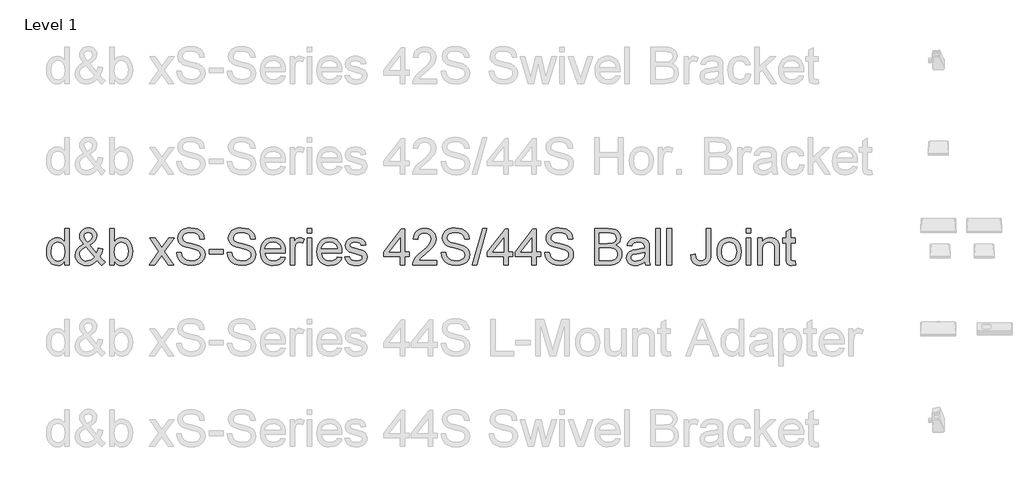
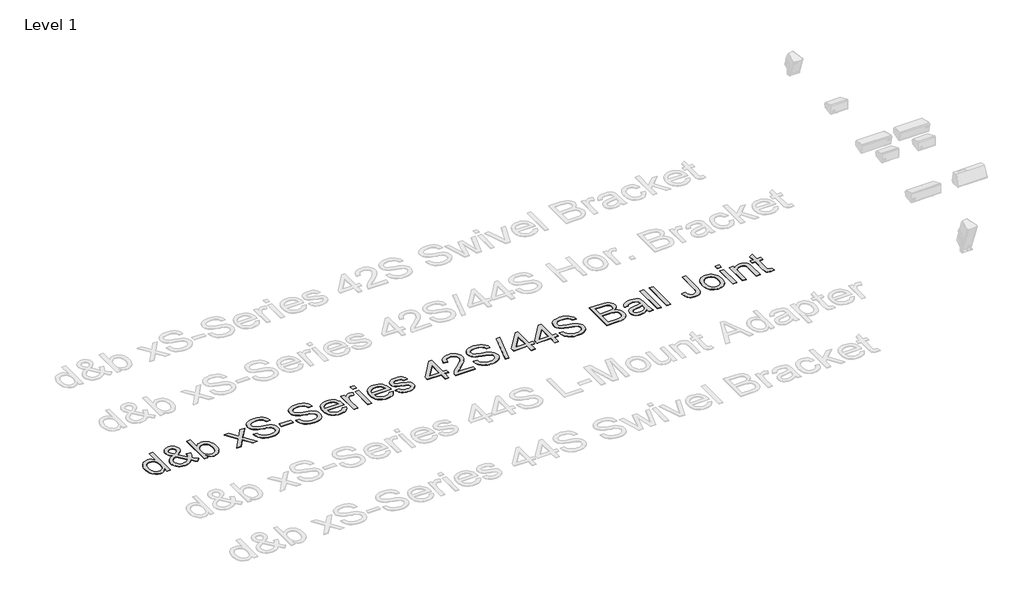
# One storey, part 28 of 55: 1 proxy.
"""IFC4 building model written with IfcOpenShell, lengths in millimetres."""

from ifc_helpers import new_model, si_unit, origin, origin_with_axes, place, context, project, spatial, polyline, outline, extrude, element, save

model = new_model("IFC4")

# Units and contexts
model_context = context("Model", 3, world=origin())
ifc_project = project(units=[si_unit("LENGTHUNIT", "METRE", prefix="MILLI")], contexts=[model_context])

# Site, building, storey
site = spatial("IfcSite", under=ifc_project)
building = spatial("IfcBuilding", under=site)
storey = spatial("IfcBuildingStorey", under=building, Name="Level 1", Elevation=0.0)

# Proxy
placement = place(None, origin())
element("IfcBuildingElementProxy", 1, Name="400mm Arial", ObjectType="400mm Arial", at=placement, inside=storey, context=model_context, shape_type="SweptSolid", body=[
    extrude(outline(polyline([(-20879.8211974, -7648.6945164), (-20879.8211974, -7601.3113154), (-20894.8491769, -7624.7883181), (-20913.0532043, -7641.5576057), (-20934.4332796, -7651.6191783), (-20958.9894028, -7654.9730358), (-20991.4611202, -7650.1169935), (-21021.1859854, -7635.5488665), (-21046.3491139, -7612.2864616), (-21065.1356211, -7581.3475858), (-21076.8342686, -7543.9830379), (-21080.7338177, -7501.4436165), (-21077.1408369, -7459.4314926), (-21066.3618944, -7421.4905962), (-21048.4092531, -7389.7791682), (-21023.2951755, -7366.4554497), (-20992.9203855, -7352.1080519), (-20959.1856065, -7347.325586), (-20934.6110892, -7350.7468885), (-20912.8815261, -7361.0107962), (-20894.4629008, -7376.7438829), (-20879.8211974, -7396.5727224), (-20879.8211974, -7246.8692758), (-20829.5930424, -7246.8692758), (-20829.5930424, -7648.6945164), (-20879.8211974, -7648.6945164)]), holes=[polyline([(-21030.5056627, -7501.2474128), (-21029.089317, -7525.6042665), (-21024.8402799, -7546.6808392), (-21017.7585515, -7564.4771307), (-21007.8441318, -7578.9931411), (-20983.1469871, -7598.3069458), (-20969.2717046, -7603.135397), (-20954.3786151, -7604.7448807), (-20939.415015, -7603.2089734), (-20925.6225058, -7598.6012514), (-20901.5507606, -7580.1703635), (-20892.0440767, -7566.2613584), (-20885.2535882, -7549.1088603), (-20879.8211974, -7505.0733855), (-20885.3516901, -7456.9298951), (-20892.2648059, -7438.3947739), (-20901.9431681, -7423.5507354), (-20913.6448812, -7412.1770504), (-20926.6280499, -7404.0529896), (-20940.8926743, -7399.1785532), (-20956.4387543, -7397.5537411), (-20971.6261493, -7399.1141738), (-20985.5014319, -7403.7954722), (-20998.064602, -7411.5976362), (-21009.3156597, -7422.5206658), (-21018.586286, -7436.8036843), (-21025.2081619, -7454.6858149), (-21030.5056627, -7501.2474128)])]), origin_with_axes(), (0.0, 0.0, 1.0), 5.0),
    extrude(outline(polyline([(-20523.809528, -7599.0549725), (-20549.3405384, -7623.5191252), (-20577.0788409, -7640.99352), (-20607.0734862, -7651.4781569), (-20639.3735254, -7654.9730358), (-20668.6814577, -7652.3855991), (-20694.8010793, -7644.623289), (-20717.7323904, -7631.6861055), (-20737.4753908, -7613.5740486), (-20750.308341, -7596.2038871), (-20759.4747341, -7577.8404442), (-20764.9745699, -7558.4837198), (-20766.8078485, -7538.1337141), (-20760.9094739, -7502.9396699), (-20743.2143499, -7471.3263438), (-20713.796053, -7443.3182613), (-20672.7281596, -7418.9399477), (-20694.6416638, -7390.5885086), (-20707.7995765, -7368.1231814), (-20714.3846642, -7348.9442668), (-20716.5796934, -7330.4520651), (-20714.8506481, -7312.8979626), (-20709.6635119, -7296.5333452), (-20701.018285, -7281.3582129), (-20688.9149674, -7267.3725657), (-20674.1935562, -7255.6555241), (-20657.6940487, -7247.2862088), (-20639.4164449, -7242.2646195), (-20619.3607448, -7240.5907564), (-20600.212487, -7242.1910431), (-20582.8913764, -7246.9919032), (-20567.397413, -7254.9933366), (-20553.7305969, -7266.1953433), (-20542.5715097, -7279.6414302), (-20534.6007332, -7294.3751041), (-20529.8182672, -7310.396365), (-20528.2241119, -7327.7052129), (-20532.9452642, -7355.68877), (-20547.108721, -7381.563137), (-20570.7144823, -7405.3283139), (-20603.7625482, -7426.9843007), (-20531.069066, -7517.5323224), (-20518.6837055, -7491.6579554), (-20509.3885538, -7461.9085647), (-20459.1603987, -7472.7978718), (-20474.6114425, -7519.3226815), (-20494.6732739, -7555.4977443), (-20466.1256311, -7588.8033276), (-20434.0463211, -7616.3209009), (-20471.7174374, -7654.9730358), (-20497.3465498, -7631.52669), (-20523.809528, -7599.0549725)]), holes=[polyline([(-20557.4584678, -7562.8553842), (-20647.1235727, -7450.9211558), (-20681.3733865, -7472.7733463), (-20702.305872, -7493.0068561), (-20713.0112381, -7512.3329235), (-20716.5796934, -7531.4627873), (-20711.6991256, -7555.1543878), (-20697.0574222, -7579.7289051), (-20686.2784798, -7590.6733944), (-20673.4639236, -7598.4908868), (-20658.6137537, -7603.1813823), (-20641.7279702, -7604.7448807), (-20619.0051256, -7601.8263502), (-20595.5710425, -7593.0707588), (-20574.1480476, -7579.6798541), (-20557.4584678, -7562.8553842)]), polyline([(-20629.1709314, -7395.2973981), (-20602.9041569, -7378.6323438), (-20587.8700461, -7364.1500559), (-20580.8067117, -7350.0601755), (-20578.452267, -7334.5723435), (-20581.5547385, -7317.0243723), (-20590.862153, -7303.0325938), (-20604.829406, -7293.8723321), (-20621.9113933, -7290.8189115), (-20639.3612626, -7293.8478066), (-20653.6473468, -7302.9344919), (-20663.1754905, -7316.3867102), (-20666.3515384, -7332.5122043), (-20662.0350563, -7350.9063041), (-20648.9875082, -7371.360543), (-20629.1709314, -7395.2973981)])]), origin_with_axes(), (0.0, 0.0, 1.0), 5.0),
    extrude(outline(polyline([(-20333.590011, -7648.6945164), (-20383.8181661, -7648.6945164), (-20383.8181661, -7246.8692758), (-20333.590011, -7246.8692758), (-20333.590011, -7395.8860093), (-20317.0721094, -7374.6408241), (-20298.4204923, -7359.4656918), (-20277.6351595, -7350.3606124), (-20254.7161112, -7347.325586), (-20228.8417442, -7350.0601755), (-20204.3898543, -7358.263944), (-20182.758393, -7371.4218567), (-20165.3453119, -7389.0188788), (-20151.6968898, -7410.883332), (-20141.3594058, -7436.8435381), (-20134.8478945, -7465.8203766), (-20132.6773907, -7496.734727), (-20134.9245365, -7532.4070178), (-20141.6659741, -7563.7873519), (-20152.9017034, -7590.8757295), (-20168.6317244, -7613.6721505), (-20187.5132678, -7631.7412878), (-20208.2035643, -7644.6478145), (-20230.702614, -7652.3917305), (-20255.0104168, -7654.9730358), (-20278.6836232, -7651.6437038), (-20299.671291, -7641.6557076), (-20317.9734203, -7625.0090473), (-20333.590011, -7601.7037229), (-20333.590011, -7648.6945164)]), holes=[polyline([(-20333.590011, -7499.0891717), (-20330.1564457, -7540.9786682), (-20319.8557498, -7569.3301073), (-20307.6849872, -7584.8240707), (-20293.5399244, -7595.8911874), (-20277.4205617, -7602.5314574), (-20259.3268989, -7604.7448807), (-20244.3050508, -7603.1139372), (-20230.3377977, -7598.2211067), (-20217.4251396, -7590.0663891), (-20205.5670767, -7578.6497845), (-20195.6526569, -7564.0019498), (-20188.5709285, -7546.1535416), (-20184.3218914, -7525.1045601), (-20182.9055458, -7500.8550053), (-20188.3379366, -7454.8942814), (-20195.1284251, -7437.1010555), (-20204.6351089, -7422.7659205), (-20216.0670419, -7411.735592), (-20228.6332778, -7403.8567859), (-20242.3338164, -7399.1295023), (-20257.1686579, -7397.5537411), (-20272.190506, -7399.1846846), (-20286.1577591, -7404.0775151), (-20299.0704171, -7412.2322327), (-20310.9284801, -7423.6488372), (-20320.8428999, -7438.1495192), (-20327.9246283, -7455.556469), (-20332.1736653, -7475.8696865), (-20333.590011, -7499.0891717)])]), origin_with_axes(), (0.0, 0.0, 1.0), 5.0),
    extrude(outline(polyline([(-19950.6003285, -7648.6945164), (-19843.2768878, -7500.2663941), (-19944.3218092, -7353.6041054), (-19884.0872638, -7353.6041054), (-19835.3306367, -7424.3355503), (-19812.4729021, -7457.5920827), (-19792.6563253, -7430.3197641), (-19737.1306695, -7353.6041054), (-19676.6999204, -7353.6041054), (-19782.8461387, -7500.364496), (-19680.623995, -7648.6945164), (-19740.9566422, -7648.6945164), (-19802.5646137, -7559.4218189), (-19813.7482263, -7543.0388074), (-19890.1695795, -7648.6945164), (-19950.6003285, -7648.6945164)])), origin_with_axes(), (0.0, 0.0, 1.0), 5.0),
    extrude(outline(polyline([(-19649.2313981, -7510.56709), (-19599.003243, -7510.56709), (-19593.2397584, -7538.4402825), (-19582.8164352, -7560.844296), (-19566.556051, -7578.6252591), (-19543.2813835, -7592.6293004), (-19514.8318425, -7601.7159856), (-19483.0468381, -7604.7448807), (-19455.063281, -7602.4517496), (-19430.5623402, -7595.5723563), (-19410.7089752, -7584.6830493), (-19396.6681457, -7570.3601769), (-19388.3172244, -7553.9158517), (-19385.533584, -7536.6621862), (-19387.6182486, -7519.849979), (-19393.8722425, -7505.3186402), (-19406.5764341, -7492.9210169), (-19428.0116917, -7482.5099565), (-19501.1466323, -7463.3310418), (-19549.1552327, -7450.639113), (-19579.8733793, -7438.5603208), (-19604.8770922, -7421.6622745), (-19622.5967416, -7401.1835101), (-19633.1549549, -7377.565486), (-19636.6743593, -7351.2496606), (-19632.3210891, -7321.8313637), (-19619.2612782, -7294.3996296), (-19597.8382834, -7271.1494875), (-19568.395461, -7254.2759667), (-19533.054264, -7244.012059), (-19493.9361452, -7240.5907564), (-19451.5561394, -7244.1714745), (-19414.4736342, -7254.9136288), (-19384.013005, -7272.59649), (-19361.4986269, -7296.999329), (-19347.249331, -7326.6015669), (-19341.5839483, -7359.8826247), (-19391.8121033, -7359.8826247), (-19401.0336787, -7329.9125049), (-19409.3968627, -7318.0544419), (-19420.2616443, -7308.2810436), (-19450.3053406, -7295.1844445), (-19491.9741079, -7290.8189115), (-19534.6238939, -7295.1353936), (-19550.9271976, -7300.5309962), (-19563.8827752, -7308.0848398), (-19580.805347, -7327.1411272), (-19586.4462043, -7349.7781326), (-19582.4485532, -7369.0796746), (-19570.4556002, -7384.6042948), (-19542.1041611, -7398.4857088), (-19488.4424407, -7412.6614283), (-19433.0639377, -7426.1259093), (-19399.5621507, -7437.8736077), (-19370.9286687, -7456.0960292), (-19350.9526764, -7478.5858819), (-19339.2172408, -7505.097911), (-19335.3054289, -7535.3868619), (-19339.805852, -7566.3502632), (-19353.3071212, -7595.4742545), (-19375.2574136, -7620.5392811), (-19405.1049061, -7639.3257883), (-19440.9979261, -7651.0612239), (-19481.0848008, -7654.9730358), (-19530.2951491, -7650.7546556), (-19570.7989567, -7638.099515), (-19603.0622077, -7616.958563), (-19627.5508858, -7587.2827487), (-19643.2717098, -7551.1322113), (-19649.2313981, -7510.56709)])), origin_with_axes(), (0.0, 0.0, 1.0), 5.0),
    extrude(outline(polyline([(-19291.3557932, -7529.4026481), (-19291.3557932, -7479.174493), (-19134.3928086, -7479.174493), (-19134.3928086, -7529.4026481), (-19291.3557932, -7529.4026481)])), origin_with_axes(), (0.0, 0.0, 1.0), 5.0),
    extrude(outline(polyline([(-19090.4431729, -7510.56709), (-19040.2150178, -7510.56709), (-19034.4515332, -7538.4402825), (-19024.02821, -7560.844296), (-19007.7678258, -7578.6252591), (-18984.4931583, -7592.6293004), (-18956.0436173, -7601.7159856), (-18924.2586129, -7604.7448807), (-18896.2750558, -7602.4517496), (-18871.774115, -7595.5723563), (-18851.9207499, -7584.6830493), (-18837.8799205, -7570.3601769), (-18829.5289992, -7553.9158517), (-18826.7453587, -7536.6621862), (-18828.8300234, -7519.849979), (-18835.0840173, -7505.3186402), (-18847.7882089, -7492.9210169), (-18869.2234665, -7482.5099565), (-18942.3584071, -7463.3310418), (-18990.3670075, -7450.639113), (-19021.0851541, -7438.5603208), (-19046.088867, -7421.6622745), (-19063.8085164, -7401.1835101), (-19074.3667297, -7377.565486), (-19077.8861341, -7351.2496606), (-19073.5328638, -7321.8313637), (-19060.473053, -7294.3996296), (-19039.0500582, -7271.1494875), (-19009.6072358, -7254.2759667), (-18974.2660388, -7244.012059), (-18935.14792, -7240.5907564), (-18892.7679141, -7244.1714745), (-18855.685409, -7254.9136288), (-18825.2247798, -7272.59649), (-18802.7104017, -7296.999329), (-18788.4611058, -7326.6015669), (-18782.7957231, -7359.8826247), (-18833.0238781, -7359.8826247), (-18842.2454535, -7329.9125049), (-18850.6086375, -7318.0544419), (-18861.4734191, -7308.2810436), (-18891.5171154, -7295.1844445), (-18933.1858827, -7290.8189115), (-18975.8356687, -7295.1353936), (-18992.1389724, -7300.5309962), (-19005.09455, -7308.0848398), (-19022.0171218, -7327.1411272), (-19027.657979, -7349.7781326), (-19023.660328, -7369.0796746), (-19011.667375, -7384.6042948), (-18983.3159359, -7398.4857088), (-18929.6542155, -7412.6614283), (-18874.2757125, -7426.1259093), (-18840.7739255, -7437.8736077), (-18812.1404435, -7456.0960292), (-18792.1644512, -7478.5858819), (-18780.4290156, -7505.097911), (-18776.5172037, -7535.3868619), (-18781.0176267, -7566.3502632), (-18794.518896, -7595.4742545), (-18816.4691883, -7620.5392811), (-18846.3166809, -7639.3257883), (-18882.2097009, -7651.0612239), (-18922.2965756, -7654.9730358), (-18971.5069238, -7650.7546556), (-19012.0107315, -7638.099515), (-19044.2739825, -7616.958563), (-19068.7626606, -7587.2827487), (-19084.4834846, -7551.1322113), (-19090.4431729, -7510.56709)])), origin_with_axes(), (0.0, 0.0, 1.0), 5.0),
    extrude(outline(polyline([(-18500.850962, -7560.795245), (-18451.6038255, -7567.0737644), (-18459.1546035, -7586.7983707), (-18469.3480004, -7604.180795), (-18482.1840164, -7619.2210372), (-18497.6626513, -7631.9190974), (-18515.6244897, -7642.0051955), (-18535.9101161, -7649.2095512), (-18583.4527326, -7654.9730358), (-18614.618469, -7652.4867667), (-18642.3874282, -7645.0279592), (-18666.7596104, -7632.5966135), (-18687.7350155, -7615.1927294), (-18704.602405, -7593.300685), (-18716.6505403, -7567.4048582), (-18723.8794215, -7537.5052491), (-18726.2890486, -7503.6018575), (-18723.8548961, -7468.5488348), (-18716.5524385, -7437.6528785), (-18704.3816758, -7410.9139888), (-18687.342608, -7388.3321657), (-18666.4223852, -7370.3917871), (-18642.6081574, -7357.5772309), (-18615.8999246, -7349.8884972), (-18586.2976867, -7347.325586), (-18557.6488763, -7349.8823658), (-18531.7407868, -7357.5527054), (-18508.5734182, -7370.3366048), (-18488.1467704, -7388.2340638), (-18471.472519, -7410.766836), (-18459.5623394, -7437.4566748), (-18452.4162316, -7468.3035801), (-18450.0341957, -7503.3075519), (-18450.3285013, -7516.8456094), (-18676.0608935, -7516.8456094), (-18673.1515601, -7536.8890467), (-18667.3666157, -7554.4431493), (-18658.7060604, -7569.507917), (-18647.1698942, -7582.0833498), (-18633.3957791, -7591.9977696), (-18618.0213774, -7599.079498), (-18582.4717139, -7604.7448807), (-18555.7389556, -7602.1206558), (-18533.2245775, -7594.2479811), (-18514.9285796, -7580.6363473), (-18500.850962, -7560.795245)]), holes=[polyline([(-18676.0608935, -7466.6174543), (-18500.2623508, -7466.6174543), (-18507.0559049, -7440.0808997), (-18520.3732332, -7421.0981887), (-18534.0707061, -7410.7974929), (-18549.65664, -7403.439853), (-18567.1310348, -7399.025269), (-18586.4938904, -7397.5537411), (-18620.3512967, -7402.2503679), (-18648.3471166, -7416.3402483), (-18667.8080741, -7438.3028034), (-18676.0608935, -7466.6174543)])]), origin_with_axes(), (0.0, 0.0, 1.0), 5.0),
    extrude(outline(polyline([(-18399.8060406, -7648.6945164), (-18399.8060406, -7353.6041054), (-18355.8564049, -7353.6041054), (-18355.8564049, -7397.2594355), (-18339.6205462, -7371.9491542), (-18324.6600117, -7357.0376707), (-18309.6504263, -7349.7536071), (-18293.2674148, -7347.325586), (-18268.2514391, -7351.2006097), (-18242.843056, -7362.8256807), (-18259.618475, -7407.8544369), (-18277.2768108, -7400.128915), (-18294.9351465, -7397.5537411), (-18309.9324692, -7400.0308132), (-18323.3356365, -7407.4620295), (-18334.1636299, -7419.2833042), (-18341.4354307, -7434.9305518), (-18347.5422718, -7462.9876853), (-18349.5778855, -7493.5954673), (-18349.5778855, -7648.6945164), (-18399.8060406, -7648.6945164)])), origin_with_axes(), (0.0, 0.0, 1.0), 5.0),
    extrude(outline(polyline([(-18211.4504591, -7297.0974309), (-18211.4504591, -7246.8692758), (-18161.222304, -7246.8692758), (-18161.222304, -7297.0974309), (-18211.4504591, -7297.0974309)])), origin_with_axes(), (0.0, 0.0, 1.0), 5.0),
    extrude(outline(polyline([(-18211.4504591, -7648.6945164), (-18211.4504591, -7353.6041054), (-18161.222304, -7353.6041054), (-18161.222304, -7648.6945164), (-18211.4504591, -7648.6945164)])), origin_with_axes(), (0.0, 0.0, 1.0), 5.0),
    extrude(outline(polyline([(-17879.2775429, -7560.795245), (-17830.0304065, -7567.0737644), (-17837.5811844, -7586.7983707), (-17847.7745814, -7604.180795), (-17860.6105973, -7619.2210372), (-17876.0892323, -7631.9190974), (-17894.0510707, -7642.0051955), (-17914.336697, -7649.2095512), (-17961.8793136, -7654.9730358), (-17993.0450499, -7652.4867667), (-18020.8140092, -7645.0279592), (-18045.1861914, -7632.5966135), (-18066.1615965, -7615.1927294), (-18083.0289859, -7593.300685), (-18095.0771213, -7567.4048582), (-18102.3060025, -7537.5052491), (-18104.7156295, -7503.6018575), (-18102.281477, -7468.5488348), (-18094.9790194, -7437.6528785), (-18082.8082567, -7410.9139888), (-18065.769189, -7388.3321657), (-18044.8489662, -7370.3917871), (-18021.0347384, -7357.5772309), (-17994.3265055, -7349.8884972), (-17964.7242676, -7347.325586), (-17936.0754573, -7349.8823658), (-17910.1673678, -7357.5527054), (-17886.9999991, -7370.3366048), (-17866.5733513, -7388.2340638), (-17849.8990999, -7410.766836), (-17837.9889203, -7437.4566748), (-17830.8428126, -7468.3035801), (-17828.4607766, -7503.3075519), (-17828.7550822, -7516.8456094), (-18054.4874745, -7516.8456094), (-18051.578141, -7536.8890467), (-18045.7931967, -7554.4431493), (-18037.1326413, -7569.507917), (-18025.5964751, -7582.0833498), (-18011.8223601, -7591.9977696), (-17996.4479584, -7599.079498), (-17960.8982949, -7604.7448807), (-17934.1655366, -7602.1206558), (-17911.6511585, -7594.2479811), (-17893.3551606, -7580.6363473), (-17879.2775429, -7560.795245)]), holes=[polyline([(-18054.4874745, -7466.6174543), (-17878.6889317, -7466.6174543), (-17885.4824859, -7440.0808997), (-17898.7998141, -7421.0981887), (-17912.4972871, -7410.7974929), (-17928.0832209, -7403.439853), (-17945.5576157, -7399.025269), (-17964.9204714, -7397.5537411), (-17998.7778777, -7402.2503679), (-18026.7736975, -7416.3402483), (-18046.234655, -7438.3028034), (-18054.4874745, -7466.6174543)])]), origin_with_axes(), (0.0, 0.0, 1.0), 5.0),
    extrude(outline(polyline([(-17797.0681797, -7560.795245), (-17746.8400246, -7554.5167257), (-17738.918299, -7576.0010342), (-17723.5898825, -7591.7954345), (-17700.7566734, -7601.5075192), (-17670.3205696, -7604.7448807), (-17640.2523479, -7601.7772993), (-17619.1113959, -7592.874555), (-17606.6034081, -7579.9741597), (-17602.4340788, -7565.0136253), (-17606.6279335, -7552.2113318), (-17619.2094978, -7542.4501962), (-17670.9091808, -7528.1273239), (-17746.545719, -7503.5528066), (-17765.6878455, -7491.2042343), (-17779.5569967, -7474.858011), (-17787.9814944, -7455.556469), (-17790.7896603, -7434.3419406), (-17788.5333174, -7414.880983), (-17781.7642887, -7396.9160789), (-17771.0957109, -7381.1584668), (-17757.1407205, -7368.3193852), (-17725.2085633, -7353.4569526), (-17704.3251287, -7348.8584276), (-17681.9946916, -7347.325586), (-17649.302245, -7349.7903953), (-17620.8772295, -7357.1848234), (-17598.0194949, -7368.785369), (-17582.0288908, -7383.8685308), (-17571.4338893, -7403.5502176), (-17564.7629625, -7428.946338), (-17614.9911176, -7435.2248574), (-17621.3309506, -7419.4181943), (-17633.8757267, -7407.5110804), (-17652.748073, -7400.0430759), (-17678.070617, -7397.5537411), (-17706.9125654, -7399.9327113), (-17726.140531, -7407.069622), (-17736.9562617, -7417.3703179), (-17740.5615053, -7429.2406436), (-17734.5772915, -7443.8578215), (-17715.8398352, -7454.9433323), (-17672.5769125, -7465.6364356), (-17598.8533607, -7489.2789852), (-17579.3801404, -7500.5852252), (-17564.6158097, -7516.0607944), (-17555.3083952, -7535.7547439), (-17552.2059237, -7559.7161245), (-17555.8479555, -7584.4868455), (-17566.7740507, -7607.7860386), (-17584.5672766, -7627.7865564), (-17608.8107, -7642.6612517), (-17638.0941069, -7651.8950898), (-17671.0072827, -7654.9730358), (-17698.040478, -7653.4892451), (-17721.6523707, -7649.037873), (-17741.8429609, -7641.6189194), (-17758.6122485, -7631.2323844), (-17772.3097214, -7617.9273189), (-17783.2848676, -7601.7527738), (-17791.5376871, -7582.7087492), (-17797.0681797, -7560.795245)])), origin_with_axes(), (0.0, 0.0, 1.0), 5.0),
    extrude(outline(polyline([(-17188.0517994, -7648.6945164), (-17188.0517994, -7554.5167257), (-17370.1288616, -7554.5167257), (-17370.1288616, -7504.2885706), (-17175.4947607, -7253.1477952), (-17137.8236444, -7253.1477952), (-17137.8236444, -7504.2885706), (-17087.5954893, -7504.2885706), (-17087.5954893, -7554.5167257), (-17137.8236444, -7554.5167257), (-17137.8236444, -7648.6945164), (-17188.0517994, -7648.6945164)]), holes=[polyline([(-17188.0517994, -7504.2885706), (-17188.0517994, -7349.0914196), (-17308.3246864, -7504.2885706), (-17188.0517994, -7504.2885706)])]), origin_with_axes(), (0.0, 0.0, 1.0), 5.0),
    extrude(outline(polyline([(-16786.2265588, -7598.4663614), (-16786.2265588, -7648.6945164), (-17049.924373, -7648.6945164), (-17048.820727, -7631.0116552), (-17044.5287704, -7614.0645579), (-17032.1311471, -7587.0007058), (-17013.9700393, -7560.7461941), (-16987.7155276, -7533.2654091), (-16951.0376927, -7502.522737), (-16896.8486748, -7454.3792466), (-16864.3646946, -7418.8418458), (-16848.1410986, -7389.9998974), (-16842.7332333, -7361.9427639), (-16847.846793, -7336.7918982), (-16863.1874722, -7315.8839381), (-16886.7687081, -7301.7940577), (-16916.6039379, -7297.0974309), (-16947.9352212, -7301.6836931), (-16972.2767465, -7315.4424797), (-16987.9853077, -7337.2946702), (-16993.4176985, -7366.1611441), (-17043.6458536, -7359.8826247), (-17039.3263058, -7333.9530755), (-17031.4689596, -7311.2976759), (-17020.0738147, -7291.9164261), (-17005.1408714, -7275.8093261), (-16987.0134861, -7263.1480541), (-16966.0350153, -7254.1042884), (-16942.2054591, -7248.678029), (-16915.5248174, -7246.8692758), (-16888.6050524, -7248.8803641), (-16864.6467375, -7254.9136288), (-16843.6498726, -7264.96907), (-16825.6144578, -7279.0466877), (-16811.1291042, -7296.1041495), (-16800.7824231, -7315.0991232), (-16794.5744144, -7336.0316087), (-16792.5050782, -7358.9016061), (-16794.7368957, -7382.9243004), (-16801.432348, -7406.5300617), (-16813.3149364, -7430.5404933), (-16831.1081622, -7455.7771982), (-16859.4718641, -7485.9067336), (-16903.0658805, -7524.5956567), (-16960.8478792, -7572.9108254), (-16983.5094101, -7598.4663614), (-16786.2265588, -7598.4663614)])), origin_with_axes(), (0.0, 0.0, 1.0), 5.0),
    extrude(outline(polyline([(-16735.9984038, -7510.56709), (-16685.7702487, -7510.56709), (-16680.0067641, -7538.4402825), (-16669.5834409, -7560.844296), (-16653.3230567, -7578.6252591), (-16630.0483891, -7592.6293004), (-16601.5988482, -7601.7159856), (-16569.8138438, -7604.7448807), (-16541.8302867, -7602.4517496), (-16517.3293458, -7595.5723563), (-16497.4759808, -7584.6830493), (-16483.4351513, -7570.3601769), (-16475.08423, -7553.9158517), (-16472.3005896, -7536.6621862), (-16474.3852543, -7519.849979), (-16480.6392482, -7505.3186402), (-16493.3434397, -7492.9210169), (-16514.7786973, -7482.5099565), (-16587.913638, -7463.3310418), (-16635.9222383, -7450.639113), (-16666.6403849, -7438.5603208), (-16691.6440979, -7421.6622745), (-16709.3637473, -7401.1835101), (-16719.9219606, -7377.565486), (-16723.441365, -7351.2496606), (-16719.0880947, -7321.8313637), (-16706.0282839, -7294.3996296), (-16684.605289, -7271.1494875), (-16655.1624667, -7254.2759667), (-16619.8212697, -7244.012059), (-16580.7031509, -7240.5907564), (-16538.323145, -7244.1714745), (-16501.2406399, -7254.9136288), (-16470.7800107, -7272.59649), (-16448.2656326, -7296.999329), (-16434.0163367, -7326.6015669), (-16428.3509539, -7359.8826247), (-16478.579109, -7359.8826247), (-16487.8006843, -7329.9125049), (-16496.1638684, -7318.0544419), (-16507.02865, -7308.2810436), (-16537.0723462, -7295.1844445), (-16578.7411136, -7290.8189115), (-16621.3908995, -7295.1353936), (-16637.6942033, -7300.5309962), (-16650.6497809, -7308.0848398), (-16667.5723527, -7327.1411272), (-16673.2132099, -7349.7781326), (-16669.2155589, -7369.0796746), (-16657.2226059, -7384.6042948), (-16628.8711668, -7398.4857088), (-16575.2094464, -7412.6614283), (-16519.8309434, -7426.1259093), (-16486.3291564, -7437.8736077), (-16457.6956744, -7456.0960292), (-16437.7196821, -7478.5858819), (-16425.9842464, -7505.097911), (-16422.0724345, -7535.3868619), (-16426.5728576, -7566.3502632), (-16440.0741268, -7595.4742545), (-16462.0244192, -7620.5392811), (-16491.8719118, -7639.3257883), (-16527.7649318, -7651.0612239), (-16567.8518065, -7654.9730358), (-16617.0621547, -7650.7546556), (-16657.5659624, -7638.099515), (-16689.8292134, -7616.958563), (-16714.3178915, -7587.2827487), (-16730.0387154, -7551.1322113), (-16735.9984038, -7510.56709)])), origin_with_axes(), (0.0, 0.0, 1.0), 5.0),
    extrude(outline(polyline([(-16390.6798376, -7648.6945164), (-16277.6664887, -7246.8692758), (-16232.1472232, -7246.8692758), (-16345.2586739, -7648.6945164), (-16390.6798376, -7648.6945164)])), origin_with_axes(), (0.0, 0.0, 1.0), 5.0),
    extrude(outline(polyline([(-16045.3612715, -7648.6945164), (-16045.3612715, -7554.5167257), (-16227.4383336, -7554.5167257), (-16227.4383336, -7504.2885706), (-16032.8042327, -7253.1477952), (-15995.1331164, -7253.1477952), (-15995.1331164, -7504.2885706), (-15944.9049613, -7504.2885706), (-15944.9049613, -7554.5167257), (-15995.1331164, -7554.5167257), (-15995.1331164, -7648.6945164), (-16045.3612715, -7648.6945164)]), holes=[polyline([(-16045.3612715, -7504.2885706), (-16045.3612715, -7349.0914196), (-16165.6341584, -7504.2885706), (-16045.3612715, -7504.2885706)])]), origin_with_axes(), (0.0, 0.0, 1.0), 5.0),
    extrude(outline(polyline([(-15737.7138216, -7648.6945164), (-15737.7138216, -7554.5167257), (-15919.7908838, -7554.5167257), (-15919.7908838, -7504.2885706), (-15725.1567829, -7253.1477952), (-15687.4856666, -7253.1477952), (-15687.4856666, -7504.2885706), (-15637.2575115, -7504.2885706), (-15637.2575115, -7554.5167257), (-15687.4856666, -7554.5167257), (-15687.4856666, -7648.6945164), (-15737.7138216, -7648.6945164)]), holes=[polyline([(-15737.7138216, -7504.2885706), (-15737.7138216, -7349.0914196), (-15857.9867086, -7504.2885706), (-15737.7138216, -7504.2885706)])]), origin_with_axes(), (0.0, 0.0, 1.0), 5.0),
    extrude(outline(polyline([(-15593.3078758, -7510.56709), (-15543.0797207, -7510.56709), (-15537.3162361, -7538.4402825), (-15526.8929129, -7560.844296), (-15510.6325288, -7578.6252591), (-15487.3578612, -7592.6293004), (-15458.9083202, -7601.7159856), (-15427.1233159, -7604.7448807), (-15399.1397588, -7602.4517496), (-15374.6388179, -7595.5723563), (-15354.7854529, -7584.6830493), (-15340.7446234, -7570.3601769), (-15332.3937021, -7553.9158517), (-15329.6100617, -7536.6621862), (-15331.6947263, -7519.849979), (-15337.9487202, -7505.3186402), (-15350.6529118, -7492.9210169), (-15372.0881694, -7482.5099565), (-15445.22311, -7463.3310418), (-15493.2317104, -7450.639113), (-15523.949857, -7438.5603208), (-15548.9535699, -7421.6622745), (-15566.6732194, -7401.1835101), (-15577.2314326, -7377.565486), (-15580.750837, -7351.2496606), (-15576.3975668, -7321.8313637), (-15563.3377559, -7294.3996296), (-15541.9147611, -7271.1494875), (-15512.4719387, -7254.2759667), (-15477.1307417, -7244.012059), (-15438.0126229, -7240.5907564), (-15395.6326171, -7244.1714745), (-15358.550112, -7254.9136288), (-15328.0894827, -7272.59649), (-15305.5751046, -7296.999329), (-15291.3258087, -7326.6015669), (-15285.660426, -7359.8826247), (-15335.888581, -7359.8826247), (-15345.1101564, -7329.9125049), (-15353.4733404, -7318.0544419), (-15364.338122, -7308.2810436), (-15394.3818183, -7295.1844445), (-15436.0505856, -7290.8189115), (-15478.7003716, -7295.1353936), (-15495.0036753, -7300.5309962), (-15507.9592529, -7308.0848398), (-15524.8818247, -7327.1411272), (-15530.522682, -7349.7781326), (-15526.5250309, -7369.0796746), (-15514.5320779, -7384.6042948), (-15486.1806388, -7398.4857088), (-15432.5189184, -7412.6614283), (-15377.1404154, -7426.1259093), (-15343.6386284, -7437.8736077), (-15315.0051465, -7456.0960292), (-15295.0291541, -7478.5858819), (-15283.2937185, -7505.097911), (-15279.3819066, -7535.3868619), (-15283.8823297, -7566.3502632), (-15297.3835989, -7595.4742545), (-15319.3338913, -7620.5392811), (-15349.1813838, -7639.3257883), (-15385.0744038, -7651.0612239), (-15425.1612785, -7654.9730358), (-15474.3716268, -7650.7546556), (-15514.8754344, -7638.099515), (-15547.1386854, -7616.958563), (-15571.6273636, -7587.2827487), (-15587.3481875, -7551.1322113), (-15593.3078758, -7510.56709)])), origin_with_axes(), (0.0, 0.0, 1.0), 5.0),
    extrude(outline(polyline([(-15047.0766894, -7648.6945164), (-15047.0766894, -7246.8692758), (-14893.7434738, -7246.8692758), (-14851.5719344, -7249.8245945), (-14818.6464958, -7258.6905506), (-14793.409791, -7273.6878733), (-14774.3044527, -7295.0372917), (-14762.2747114, -7320.1513693), (-14758.2647977, -7346.4426692), (-14761.6370493, -7370.6370417), (-14771.7538042, -7393.3844118), (-14788.6886387, -7413.2868277), (-14812.5151292, -7428.946338), (-14784.0533255, -7443.8087706), (-14763.0227382, -7466.4212506), (-14750.0365037, -7495.2877244), (-14745.7077589, -7528.9121388), (-14748.6630776, -7556.9324841), (-14757.5290337, -7582.9172157), (-14770.7605228, -7605.0146609), (-14786.8124405, -7621.3731469), (-14806.4696018, -7633.2189472), (-14830.5168215, -7641.7783349), (-14859.7389147, -7646.9654711), (-14894.9206962, -7648.6945164), (-15047.0766894, -7648.6945164)]), holes=[polyline([(-14996.8485343, -7598.4663614), (-14893.8415756, -7598.4663614), (-14856.5628668, -7596.504324), (-14825.0231171, -7585.5659661), (-14813.447097, -7576.1359242), (-14804.1274198, -7563.2477917), (-14797.9837904, -7547.4779168), (-14795.935914, -7529.4026481), (-14798.3394097, -7508.4088489), (-14805.5498968, -7490.3581057), (-14818.1437238, -7476.2436998), (-14836.6972391, -7467.0589127), (-14862.9762762, -7462.0189293), (-14898.7466689, -7460.3389349), (-14996.8485343, -7460.3389349), (-14996.8485343, -7598.4663614)]), polyline([(-14996.8485343, -7410.1107798), (-14905.1232902, -7410.1107798), (-14851.5596717, -7405.7942977), (-14832.8099526, -7398.3508187), (-14819.3332089, -7387.2039943), (-14811.2030168, -7372.5255026), (-14808.4929528, -7354.4870222), (-14811.0190758, -7336.9758392), (-14818.5974449, -7321.7209991), (-14830.8847035, -7309.8138852), (-14847.5374952, -7302.3458807), (-14873.0930311, -7298.4095434), (-14912.0885226, -7297.0974309), (-14996.8485343, -7297.0974309), (-14996.8485343, -7410.1107798)])]), origin_with_axes(), (0.0, 0.0, 1.0), 5.0),
    extrude(outline(polyline([(-14494.5669835, -7611.0234001), (-14518.5651524, -7631.6002664), (-14543.2745597, -7645.0647474), (-14569.2592913, -7652.4959637), (-14597.0834329, -7654.9730358), (-14619.4475925, -7653.4831137), (-14639.0587685, -7649.0133475), (-14655.9169609, -7641.5637371), (-14670.0221698, -7631.1342825), (-14681.1597972, -7618.3871714), (-14689.1152453, -7603.9845913), (-14693.8885142, -7587.9265422), (-14695.4796038, -7570.2130241), (-14693.0761081, -7549.3909032), (-14685.865621, -7530.4817686), (-14674.743322, -7514.2949609), (-14660.6043907, -7501.6398202), (-14643.9883873, -7492.0748883), (-14625.434872, -7485.1587068), (-14581.9757456, -7477.6048632), (-14530.6194191, -7469.6586121), (-14494.8612891, -7460.3389349), (-14494.5669835, -7449.1553222), (-14498.0250743, -7426.739046), (-14508.3993466, -7412.0728171), (-14531.6004377, -7401.1835101), (-14563.9250024, -7397.5537411), (-14593.8460713, -7399.9694995), (-14614.7417686, -7407.2167748), (-14628.9910646, -7420.6199422), (-14638.9729294, -7441.5033767), (-14689.2010845, -7435.2248574), (-14680.4822812, -7407.7563351), (-14667.4715213, -7386.1739247), (-14648.9547942, -7369.6682858), (-14623.7180893, -7357.4300781), (-14592.8527899, -7349.851709), (-14557.4502793, -7347.325586), (-14523.4947711, -7349.5574034), (-14496.5780718, -7356.2528557), (-14476.2832484, -7366.3205597), (-14462.193368, -7378.669132), (-14452.8491653, -7393.9362348), (-14446.7913751, -7412.7595302), (-14444.3388285, -7456.7091659), (-14444.3388285, -7519.2000541), (-14441.78818, -7606.4616634), (-14431.7817897, -7648.6945164), (-14482.0099448, -7648.6945164), (-14490.0542977, -7631.2323844), (-14494.5669835, -7611.0234001)]), holes=[polyline([(-14494.5669835, -7510.56709), (-14528.3140252, -7518.930274), (-14575.5991243, -7525.9690828), (-14618.812996, -7534.1115377), (-14630.0579224, -7539.6788185), (-14638.3843182, -7547.3552895), (-14643.5346661, -7556.5523394), (-14645.2514488, -7566.681357), (-14641.5113152, -7581.617366), (-14630.2909143, -7593.8555737), (-14611.8355009, -7602.022554), (-14586.3903295, -7604.7448807), (-14559.4123166, -7601.7405111), (-14535.5735633, -7592.7274022), (-14516.2474958, -7579.4468622), (-14502.8075402, -7563.6401991), (-14496.8478519, -7547.3552895), (-14494.8612891, -7524.7918605), (-14494.5669835, -7510.56709)])]), origin_with_axes(), (0.0, 0.0, 1.0), 5.0),
    extrude(outline(polyline([(-14375.2751152, -7648.6945164), (-14375.2751152, -7246.8692758), (-14325.0469602, -7246.8692758), (-14325.0469602, -7648.6945164), (-14375.2751152, -7648.6945164)])), origin_with_axes(), (0.0, 0.0, 1.0), 5.0),
    extrude(outline(polyline([(-14249.7047276, -7648.6945164), (-14249.7047276, -7246.8692758), (-14199.4765725, -7246.8692758), (-14199.4765725, -7648.6945164), (-14249.7047276, -7648.6945164)])), origin_with_axes(), (0.0, 0.0, 1.0), 5.0),
    extrude(outline(polyline([(-13986.0069134, -7535.8773712), (-13935.7787583, -7529.4026481), (-13930.554834, -7565.9210675), (-13918.6109319, -7588.7542767), (-13900.3639849, -7600.7472297), (-13876.2309261, -7604.7448807), (-13857.6774108, -7602.4762751), (-13841.8462222, -7595.6704582), (-13829.63254, -7584.9528294), (-13821.9315436, -7570.9487881), (-13817.8480534, -7550.6784902), (-13816.48689, -7521.1620914), (-13816.48689, -7246.8692758), (-13766.258735, -7246.8692758), (-13766.258735, -7520.2791746), (-13769.2876301, -7565.0013625), (-13778.3743153, -7598.3192086), (-13794.0460883, -7622.6607339), (-13816.8302466, -7640.4539597), (-13845.4392031, -7651.3432668), (-13878.5853708, -7654.9730358), (-13903.3376977, -7653.0999033), (-13925.0120786, -7647.4805058), (-13943.6085135, -7638.1148434), (-13959.1270023, -7625.0029159), (-13971.2916336, -7608.1937744), (-13979.8264959, -7587.7364698), (-13984.7315892, -7563.6310021), (-13986.0069134, -7535.8773712)])), origin_with_axes(), (0.0, 0.0, 1.0), 5.0),
    extrude(outline(polyline([(-13697.1950217, -7501.1493109), (-13694.4788263, -7462.932503), (-13686.3302401, -7430.000933), (-13672.7492632, -7402.3546011), (-13653.7358954, -7379.9935072), (-13634.5937689, -7365.7012916), (-13613.4650796, -7355.4925663), (-13590.3498276, -7349.3673311), (-13565.2480128, -7347.325586), (-13537.5373015, -7349.8118551), (-13512.481472, -7357.2706626), (-13490.0805241, -7369.7020083), (-13470.334458, -7387.1058924), (-13454.218161, -7408.8937036), (-13442.7065202, -7434.4768306), (-13435.7995357, -7463.8552736), (-13433.4972076, -7497.0290325), (-13437.568435, -7547.7722224), (-13449.7821172, -7586.3998319), (-13469.782635, -7615.3276195), (-13497.2143692, -7636.9713435), (-13529.7964512, -7650.4726127), (-13565.2480128, -7654.9730358), (-13593.3633943, -7652.4959637), (-13618.6522158, -7645.0647474), (-13641.1144773, -7632.6793869), (-13660.7501787, -7615.3398822), (-13676.6947976, -7593.3405389), (-13688.083811, -7566.9756626), (-13694.917219, -7536.2452532), (-13697.1950217, -7501.1493109)]), holes=[polyline([(-13646.9668667, -7501.051209), (-13645.5137328, -7525.4141942), (-13641.1543311, -7546.5091609), (-13633.8886617, -7564.3361093), (-13623.7167246, -7578.8950392), (-13611.3436268, -7590.2043449), (-13597.4744756, -7598.2824204), (-13582.1092709, -7603.1292656), (-13565.2480128, -7604.7448807), (-13548.4725938, -7603.1200686), (-13533.1687028, -7598.2456322), (-13519.3363398, -7590.1215714), (-13506.9755048, -7578.7478864), (-13496.8035676, -7564.0448693), (-13489.5378982, -7545.9328124), (-13485.1784965, -7524.4117157), (-13483.7253627, -7499.4815792), (-13485.1876936, -7475.8911462), (-13489.5746864, -7455.3480025), (-13496.886341, -7437.8521479), (-13507.1226576, -7423.4035826), (-13519.5294778, -7412.0942769), (-13533.3526438, -7404.0162014), (-13548.5921555, -7399.1693561), (-13565.2480128, -7397.5537411), (-13582.1092709, -7399.1632248), (-13597.4744756, -7403.991676), (-13611.3436268, -7412.0390946), (-13623.7167246, -7423.3054807), (-13633.8886617, -7437.8214911), (-13641.1543311, -7455.6177826), (-13645.5137328, -7476.6943553), (-13646.9668667, -7501.051209)])]), origin_with_axes(), (0.0, 0.0, 1.0), 5.0),
    extrude(outline(polyline([(-13376.9905331, -7297.0974309), (-13376.9905331, -7246.8692758), (-13326.7623781, -7246.8692758), (-13326.7623781, -7297.0974309), (-13376.9905331, -7297.0974309)])), origin_with_axes(), (0.0, 0.0, 1.0), 5.0),
    extrude(outline(polyline([(-13376.9905331, -7648.6945164), (-13376.9905331, -7353.6041054), (-13326.7623781, -7353.6041054), (-13326.7623781, -7648.6945164), (-13376.9905331, -7648.6945164)])), origin_with_axes(), (0.0, 0.0, 1.0), 5.0),
    extrude(outline(polyline([(-13251.4201454, -7648.6945164), (-13251.4201454, -7353.6041054), (-13201.1919904, -7353.6041054), (-13201.1919904, -7394.8068888), (-13183.7421211, -7374.0338188), (-13162.7851101, -7359.1959117), (-13138.3209574, -7350.2931674), (-13110.349663, -7347.325586), (-13085.5912048, -7349.7168189), (-13062.9174111, -7356.8905179), (-13044.0082766, -7367.9515032), (-13030.5437955, -7382.0045954), (-13021.4080593, -7399.0130063), (-13015.4851592, -7418.9399477), (-13012.8364088, -7467.5003711), (-13012.8364088, -7648.6945164), (-13063.0645639, -7648.6945164), (-13063.0645639, -7474.2693998), (-13064.5115664, -7448.2969309), (-13068.852574, -7429.8292548), (-13076.8601387, -7416.5977657), (-13089.3068129, -7406.333858), (-13105.2606288, -7399.7487703), (-13123.7896186, -7397.5537411), (-13153.2079155, -7402.4833598), (-13178.2852048, -7417.272216), (-13188.3069235, -7429.3448768), (-13195.465294, -7445.8443843), (-13199.7603163, -7466.7707384), (-13201.1919904, -7492.1239393), (-13201.1919904, -7648.6945164), (-13251.4201454, -7648.6945164)])), origin_with_axes(), (0.0, 0.0, 1.0), 5.0),
    extrude(outline(polyline([(-12837.0378661, -7606.8050199), (-12830.7593467, -7650.1660444), (-12868.3323611, -7654.9730358), (-12892.4408945, -7652.8883712), (-12910.4180614, -7646.6343773), (-12923.1222529, -7636.995869), (-12931.4118606, -7624.7576613), (-12935.9735973, -7603.7393366), (-12937.4941762, -7567.7604775), (-12937.4941762, -7403.8322604), (-12975.1652925, -7403.8322604), (-12975.1652925, -7353.6041054), (-12937.4941762, -7353.6041054), (-12937.4941762, -7281.8916418), (-12887.2660212, -7252.3629803), (-12887.2660212, -7353.6041054), (-12837.0378661, -7353.6041054), (-12837.0378661, -7403.8322604), (-12887.2660212, -7403.8322604), (-12887.2660212, -7566.2889495), (-12884.6172708, -7592.187842), (-12876.0333576, -7601.3603664), (-12858.9145821, -7604.7448807), (-12837.0378661, -7606.8050199)])), origin_with_axes(), (0.0, 0.0, 1.0), 5.0),
])

save(model, "model.ifc")
